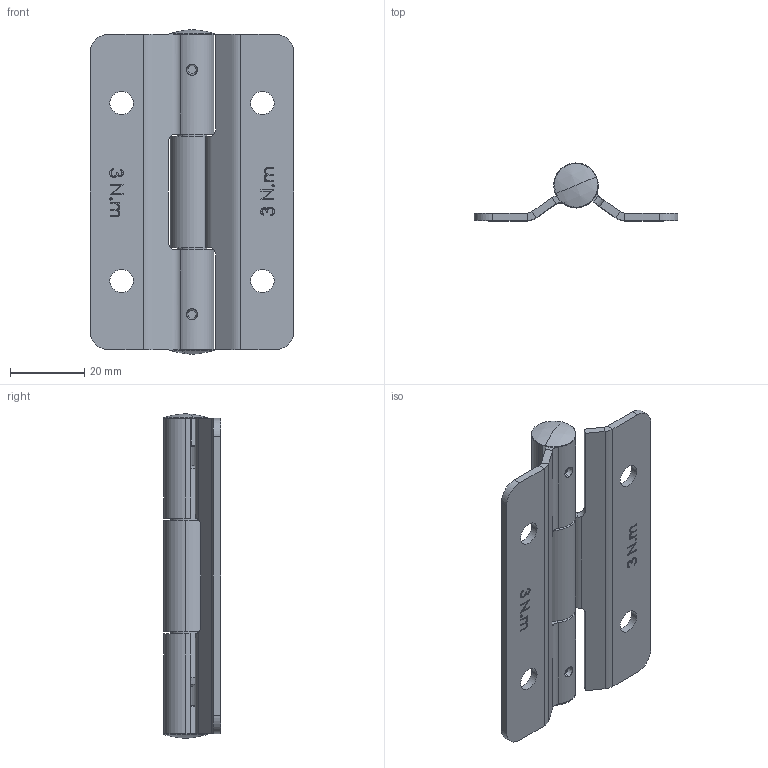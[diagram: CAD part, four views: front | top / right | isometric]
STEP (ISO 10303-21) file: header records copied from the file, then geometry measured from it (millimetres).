
FILE_DESCRIPTION (( 'STEP AP203' ), '1' );
FILE_NAME ('6213710.STEP', '2018-01-08T07:40:34', ( 'gl' ), ( '' ), 'SwSTEP 2.0', 'SolidWorks 2014', '' );
FILE_SCHEMA (( 'CONFIG_CONTROL_DESIGN' ));
Length unit declared in the file: millimetre
Products named in the file (5): 6213710_Coté male; 36600129_Bouchon; 6213710_Coté femelle_sans entailles; 6213710; 35100119_Goupille 235 1 0800 060
Assembly tree (5 placements, depth 2):
  6213710
    6213710_Coté male
    6213710_Coté femelle_sans entailles
    35100119_Goupille 235 1 0800 060
    36600129_Bouchon  x2
Bounding box: 55 x 15.5 x 87.5 mm (x, y, z)
Volume: 15665.3 mm3; surface area: 16527 mm2
Topology: 5 solids, 5 shells, 238 faces, 604 edges, 392 vertices
Faces by surface type: plane 102, cylinder 60, bspline 54, sphere 12, cone 10
Entity records: 10111 total; most frequent: CARTESIAN_POINT 4348, ORIENTED_EDGE 1160, DIRECTION 944, EDGE_CURVE 580, VERTEX_POINT 377, VECTOR 326, LINE 326, AXIS2_PLACEMENT_3D 309
